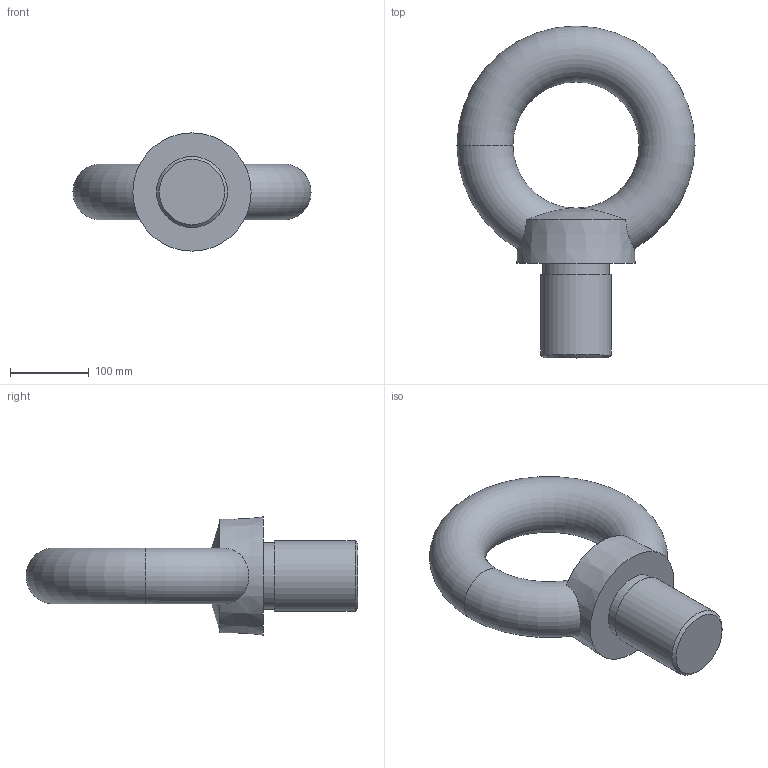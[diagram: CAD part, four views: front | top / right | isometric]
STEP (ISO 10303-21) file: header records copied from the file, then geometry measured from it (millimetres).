
FILE_DESCRIPTION(/* description */ (''),/* implementation_level */ '2;1');
FILE_NAME(/* name */ 'C:\Users\D\Documents\Inventor\各種小物\JIS\アイボルト\M90※.stp',/* time_stamp */ '2022-04-27T11:43:13+09:00',/* author */ ('D'),/* organization */ (''),/* preprocessor_version */ 'ST-DEVELOPER v18',/* originating_system */ 'Autodesk Inventor 2020',/* authorisation */ '');
FILE_SCHEMA (('AUTOMOTIVE_DESIGN { 1 0 10303 214 3 1 1 }'));
Length unit declared in the file: millimetre
Products named in the file (1): M8
Bounding box: 302 x 421 x 150 mm (x, y, z)
Volume: 4193898.6 mm3; surface area: 221893.3 mm2
Topology: 1 solids, 1 shells, 11 faces, 27 edges, 18 vertices
Faces by surface type: plane 3, cone 2, cylinder 2, sphere 2, torus 2
Full cylindrical faces by diameter (mm): 85 x1, 90 x1
Entity records: 477 total; most frequent: CARTESIAN_POINT 166, DIRECTION 60, ORIENTED_EDGE 54, AXIS2_PLACEMENT_3D 28, EDGE_CURVE 27, VERTEX_POINT 18, CIRCLE 16, EDGE_LOOP 13
